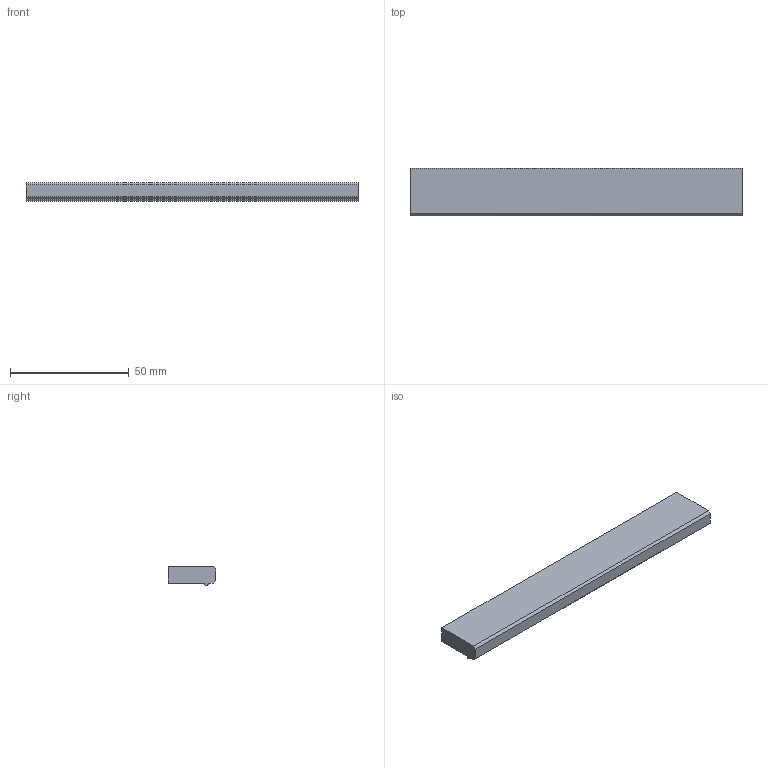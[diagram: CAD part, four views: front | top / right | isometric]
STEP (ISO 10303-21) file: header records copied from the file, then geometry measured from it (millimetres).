
FILE_DESCRIPTION( ( '' ), '1' );
FILE_NAME( 'D:/1.AUTOCAD EXPORT/Group 10/sheet_10_1/115021.stp', '2013-10-21T12:13:59', ( '' ), ( '' ), ' ', ' ', ' ' );
FILE_SCHEMA( ( 'automotive_design' ) );
Length unit declared in the file: millimetre
Products named in the file (1): 1
Bounding box: 140 x 20 x 8 mm (x, y, z)
Volume: 19478.8 mm3; surface area: 8038 mm2
Topology: 1 solids, 1 shells, 16 faces, 36 edges, 24 vertices
Faces by surface type: plane 11, cylinder 5
Entity records: 902 total; most frequent: DIRECTION 80, STYLED_ITEM 77, PRESENTATION_STYLE_ASSIGNMENT 77, CARTESIAN_POINT 77, COLOUR_RGB 77, ORIENTED_EDGE 72, EDGE_CURVE 36, CURVE_STYLE 36
